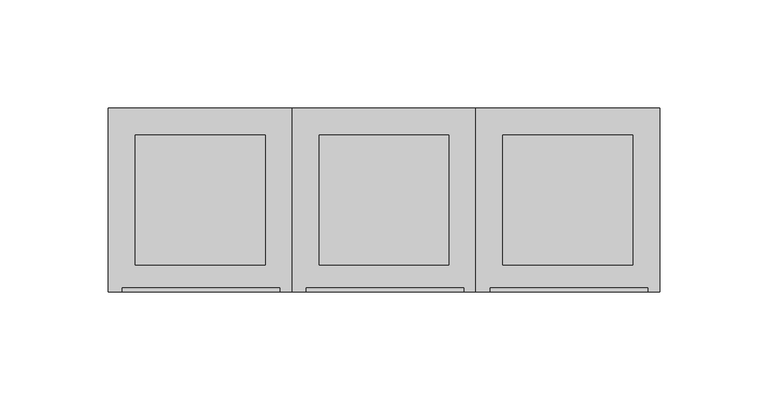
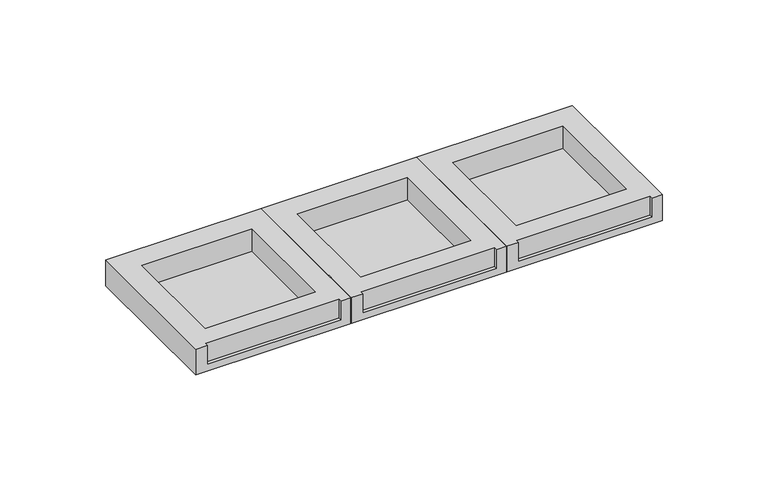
"""IFC4 building model written with IfcOpenShell, lengths in millimetres: duct fitting geometry, Суппорт универсальный - 3 поста - для кабель-каналов DLP - белый : 85мм."""

from ifc_helpers import new_model, si_unit, origin, origin_with_axes, place, context, project, spatial, polyline, outline, extrude, faceted_brep, source, transform, mapped, element, save


def duct_fitting_faa056fb(model_context):
    return source(origin(), model_context, "Body", "SolidModel", [
        extrude(outline(polyline([(200.0, -30.0), (140.0, -30.0), (140.0, 30.0), (200.0, 30.0), (200.0, -30.0)])), origin_with_axes(), (0.0, 0.0, 1.0), 2.0),
        faceted_brep([(212.5, -42.5, 15.0), (212.5, 42.5, 15.0), (127.5, 42.5, 15.0), (127.5, -42.5, 15.0), (133.8673154, -42.5, 15.0), (133.8673154, -40.5, 15.0), (207.0913444, -40.5, 15.0), (207.0913444, -42.5, 15.0), (200.0, -30.0, 15.0), (140.0, -30.0, 15.0), (140.0, 30.0, 15.0), (200.0, 30.0, 15.0), (212.5, -42.5, 0.0), (127.5, -42.5, 0.0), (127.5, 42.5, 0.0), (212.5, 42.5, 0.0), (200.0, -30.0, 0.0), (200.0, 30.0, 0.0), (140.0, 30.0, 0.0), (140.0, -30.0, 0.0), (207.0913444, -42.5, 3.9555715), (133.8673154, -42.5, 3.9555715), (207.0913444, -40.5, 3.9555715), (133.8673154, -40.5, 3.9555715)], [[[0, 1, 2, 3, 4, 5, 6, 7], [8, 9, 10, 11]], [[12, 13, 14, 15], [16, 17, 18, 19]], [[1, 0, 12, 15]], [[2, 1, 15, 14]], [[3, 2, 14, 13]], [[13, 12, 0, 7, 20, 21, 4, 3]], [[9, 8, 16, 19]], [[10, 9, 19, 18]], [[11, 10, 18, 17]], [[8, 11, 17, 16]], [[6, 22, 20, 7]], [[22, 23, 21, 20]], [[23, 5, 4, 21]], [[5, 23, 22, 6]]]),
        extrude(outline(polyline([(115.0, -30.0), (55.0, -30.0), (55.0, 30.0), (115.0, 30.0), (115.0, -30.0)])), origin_with_axes(), (0.0, 0.0, 1.0), 2.0),
        faceted_brep([(127.5, -42.5, 15.0), (127.5, 42.5, 15.0), (42.5, 42.5, 15.0), (42.5, -42.5, 15.0), (48.8673154, -42.5, 15.0), (48.8673154, -40.5, 15.0), (122.0913444, -40.5, 15.0), (122.0913444, -42.5, 15.0), (115.0, -30.0, 15.0), (55.0, -30.0, 15.0), (55.0, 30.0, 15.0), (115.0, 30.0, 15.0), (127.5, -42.5, 0.0), (42.5, -42.5, 0.0), (42.5, 42.5, 0.0), (127.5, 42.5, 0.0), (115.0, -30.0, 0.0), (115.0, 30.0, 0.0), (55.0, 30.0, 0.0), (55.0, -30.0, 0.0), (122.0913444, -42.5, 3.9555715), (48.8673154, -42.5, 3.9555715), (122.0913444, -40.5, 3.9555715), (48.8673154, -40.5, 3.9555715)], [[[0, 1, 2, 3, 4, 5, 6, 7], [8, 9, 10, 11]], [[12, 13, 14, 15], [16, 17, 18, 19]], [[1, 0, 12, 15]], [[2, 1, 15, 14]], [[3, 2, 14, 13]], [[13, 12, 0, 7, 20, 21, 4, 3]], [[9, 8, 16, 19]], [[10, 9, 19, 18]], [[11, 10, 18, 17]], [[8, 11, 17, 16]], [[6, 22, 20, 7]], [[22, 23, 21, 20]], [[23, 5, 4, 21]], [[5, 23, 22, 6]]]),
        extrude(outline(polyline([(30.0, -30.0), (-30.0, -30.0), (-30.0, 30.0), (30.0, 30.0), (30.0, -30.0)])), origin_with_axes(), (0.0, 0.0, 1.0), 2.0),
        faceted_brep([(42.5, -42.5, 15.0), (42.5, 42.5, 15.0), (-42.5, 42.5, 15.0), (-42.5, -42.5, 15.0), (-36.1326846, -42.5, 15.0), (-36.1326846, -40.5, 15.0), (37.0913444, -40.5, 15.0), (37.0913444, -42.5, 15.0), (30.0, -30.0, 15.0), (-30.0, -30.0, 15.0), (-30.0, 30.0, 15.0), (30.0, 30.0, 15.0), (42.5, -42.5, 0.0), (-42.5, -42.5, 0.0), (-42.5, 42.5, 0.0), (42.5, 42.5, 0.0), (30.0, -30.0, 0.0), (30.0, 30.0, 0.0), (-30.0, 30.0, 0.0), (-30.0, -30.0, 0.0), (37.0913444, -42.5, 3.9555715), (-36.1326846, -42.5, 3.9555715), (37.0913444, -40.5, 3.9555715), (-36.1326846, -40.5, 3.9555715)], [[[0, 1, 2, 3, 4, 5, 6, 7], [8, 9, 10, 11]], [[12, 13, 14, 15], [16, 17, 18, 19]], [[1, 0, 12, 15]], [[2, 1, 15, 14]], [[3, 2, 14, 13]], [[13, 12, 0, 7, 20, 21, 4, 3]], [[9, 8, 16, 19]], [[10, 9, 19, 18]], [[11, 10, 18, 17]], [[8, 11, 17, 16]], [[6, 22, 20, 7]], [[22, 23, 21, 20]], [[23, 5, 4, 21]], [[5, 23, 22, 6]]]),
    ])


if __name__ == "__main__":
    model = new_model("IFC4")
    model_context = context("Model", 3, world=origin())
    ifc_project = project(units=[si_unit("LENGTHUNIT", "METRE", prefix="MILLI")], contexts=[model_context])
    site = spatial("IfcSite", under=ifc_project)
    building = spatial("IfcBuilding", under=site)
    placement = place(None, origin())
    duct_fitting_shape = duct_fitting_faa056fb(model_context)
    element("IfcDuctFitting", 1, ObjectType="Суппорт универсальный - 3 поста - для кабель-каналов DLP - белый : 85мм", at=placement, inside=building, context=model_context, shape_type="MappedRepresentation", body=[
        mapped(duct_fitting_shape, transform((0.0, 0.0, 0.0), x_axis=(1.0, 0.0, 0.0), y_axis=(0.0, 1.0, 0.0), z_axis=(0.0, 0.0, 1.0))),
    ])
    save(model, "model.ifc")
